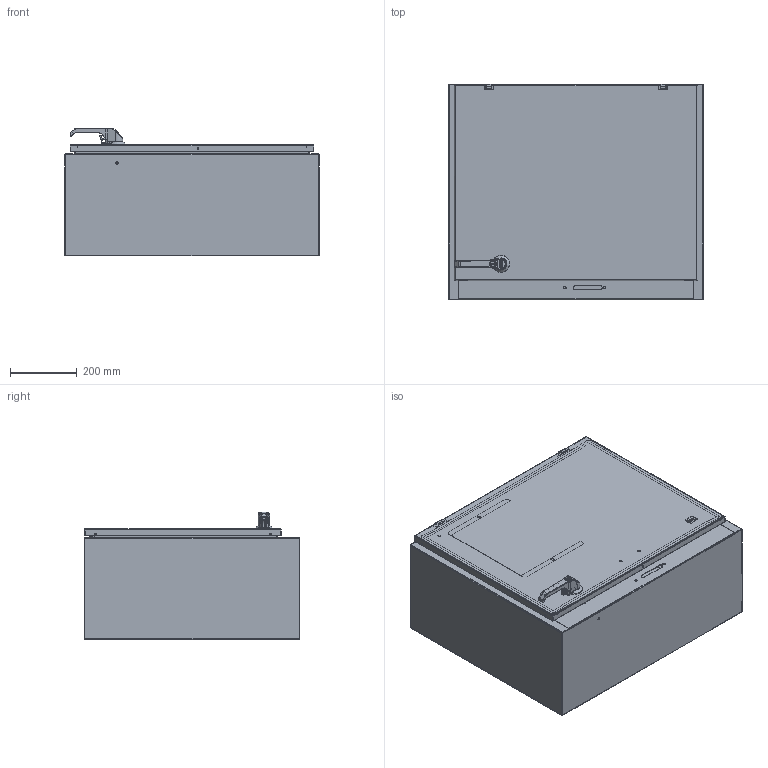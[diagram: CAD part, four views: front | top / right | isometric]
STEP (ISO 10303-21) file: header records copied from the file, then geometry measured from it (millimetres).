
FILE_DESCRIPTION((''),'2;1');
FILE_NAME('MODEL-314_ASM','2023-08-24T10:14:03',('joshi'),('SAGINAW CONTROL & ENGINEERING'),'CREO PARAMETRIC BY PTC INC, 2021284','CREO PARAMETRIC BY PTC INC, 2021284','');
FILE_SCHEMA(('AUTOMOTIVE_DESIGN { 1 0 10303 214 1 1 1 1 }'));
Length unit declared in the file: inch
Products named in the file (48): MODEL-314-BDY; MODEL-314-LS; MODEL-314-RS; MODEL-314-DR; 100837; 100882; 111267; 100953_HANDLE; 100953_HANDLE_INSERT; 100953_SHAFT_CAM; 100953_ADAPTER_CAM; 100953_NUT_CAM; 100953_BASE; 100953_O-RING; 100953_WASHER_SEALING; 100953_NUT_MOUNTING_LARGE; 100953_NUT_MOUNTING_SMALL; 100953_SCREW_SMALL; 100953_INSERT; 100953_PADLOCK_CATCH; 100953_ASM; 128142; 100030; 128142_ASM; MODEL-314-ROD-UPR; 128146; 128145; 128144; 102482; MODEL-314-ROD-UPR_ASM; 128143; 112504; MODEL-314-GSKT; 126391; 126391_ASM; 126393; 102483; 101226; 101376; 102140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
Assembly tree (74 placements, depth 4):
  MODEL-314_ASM
    MODEL-314-BDY
    MODEL-314-LS
    MODEL-314-RS
    MODEL-314-DOOR-ASSY_ASM
      MODEL-314-DR
      100837  x6
      100882  x3
      111267
      100953_ASM
        100953_HANDLE
        100953_HANDLE_INSERT
        100953_SHAFT_CAM
        100953_ADAPTER_CAM
        100953_NUT_CAM
        100953_BASE
        100953_O-RING
        100953_WASHER_SEALING
        100953_NUT_MOUNTING_LARGE
        100953_NUT_MOUNTING_SMALL
        100953_SCREW_SMALL
        100953_INSERT
        100953_PADLOCK_CATCH
      128142_ASM
        128142
        100030  x2
      MODEL-314-ROD-UPR_ASM
        MODEL-314-ROD-UPR
        128146
        128145
        128144
        102482  x2
      128143
      112504
      MODEL-314-GSKT
      126391_ASM  x2
        126391
      126393  x2
      102483  x6
      101226  x2
      101376  x2
      102140  x2
    100837  x2
    103357
    101653  x4
    122191
    SUBPANEL-SUBASSEMBLY_ASM
      SUBPANEL
      100904  x4
Bounding box: 762 x 644.52 x 381.93 mm (x, y, z)
Volume: 5660001.5 mm3; surface area: 5179265.9 mm2
Topology: 68 solids, 68 shells, 5103 faces, 13012 edges, 8055 vertices
Faces by surface type: plane 1794, cylinder 1396, bspline 866, cone 525, torus 372, sphere 150
Entity records: 200252 total; most frequent: CARTESIAN_POINT 70984, ORIENTED_EDGE 19760, DIRECTION 18075, PRESENTATION_STYLE_ASSIGNMENT 10066, STYLED_ITEM 9920, CURVE_STYLE 9880, EDGE_CURVE 9880, AXIS2_PLACEMENT_3D 6773
